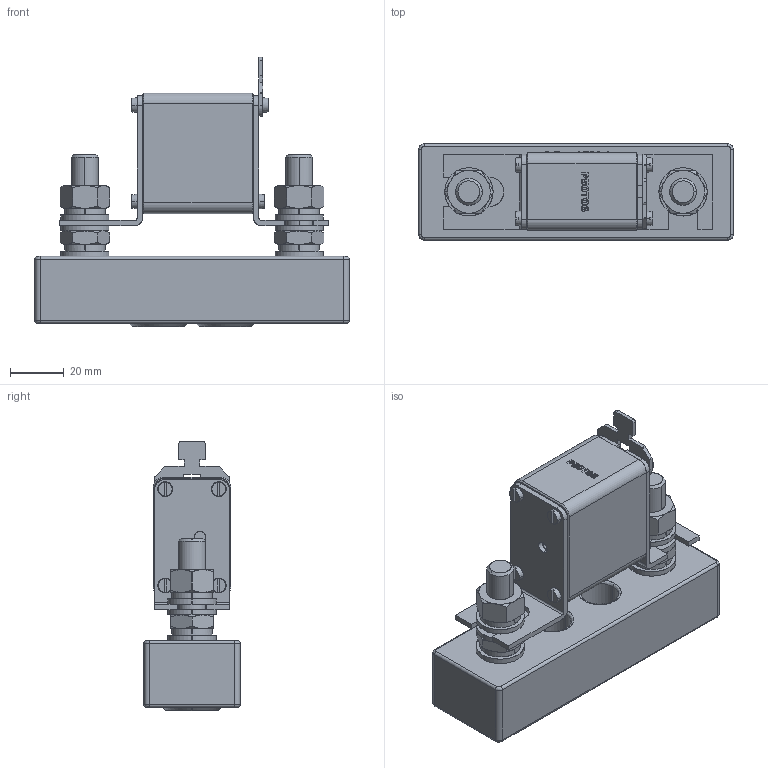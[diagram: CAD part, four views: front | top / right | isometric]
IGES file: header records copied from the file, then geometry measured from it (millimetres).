
Start section: SolidWorks IGES file using analytic representation for surfaces
Global section: file name: U:\14_RD\05_Technical_office\04_Office\Hrdinova\3D modely - IGES\Varius - Ostatní\SP41T06__P50T06.IGS; native system: SolidWorks 2011; preprocessor: SolidWorks 2011; author: adhrja3; date: 170620.142031; units: millimetre
Bounding box: 117.5 x 36 x 100.5 mm (x, y, z)
Surface area: 54566.4 mm2 (no closed solid volume)
Topology: 0 solids, 0 shells, 942 faces, 11928 edges, 11912 vertices
Faces by surface type: bspline 522, revolution 420
